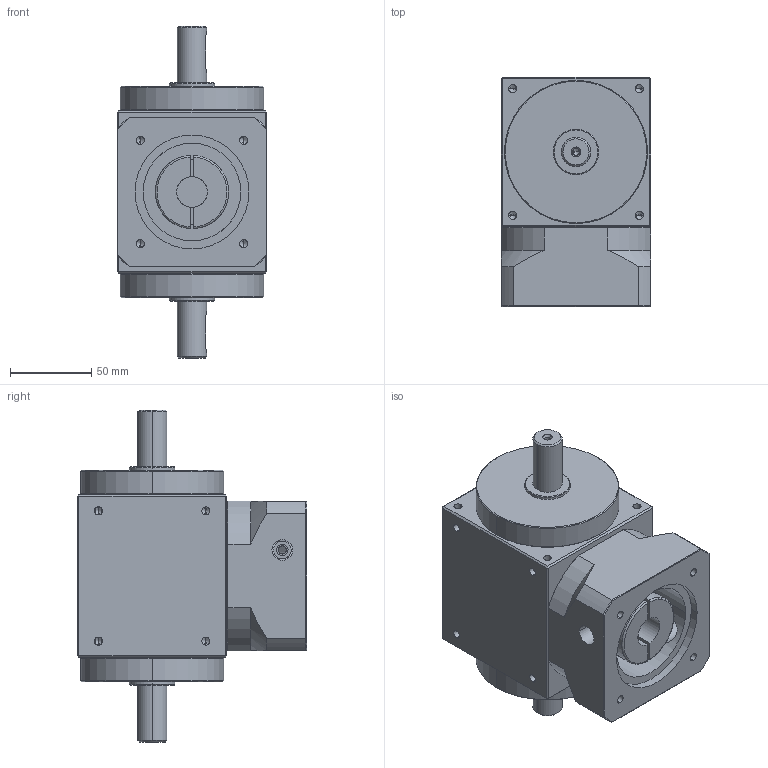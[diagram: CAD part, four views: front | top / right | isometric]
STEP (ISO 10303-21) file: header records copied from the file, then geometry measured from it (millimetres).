
FILE_DESCRIPTION (( 'STEP AP203' ), '1' );
FILE_NAME ('KHT90-S2-L0£r70PCD£r90M6.STEP', '2014-03-26T06:32:35', ( 'KELLY' ), ( '' ), 'SwSTEP 2.0', 'SolidWorks 2012', '' );
FILE_SCHEMA (( 'CONFIG_CONTROL_DESIGN' ));
Length unit declared in the file: millimetre
Products named in the file (1): KHT90-S2-L0｣r70PCD｣r90M6
Bounding box: 92 x 141 x 204 mm (x, y, z)
Volume: 1344160.7 mm3; surface area: 133922.2 mm2
Topology: 4 solids, 4 shells, 301 faces, 698 edges, 380 vertices
Faces by surface type: cylinder 136, cone 92, plane 69, torus 4
Entity records: 9027 total; most frequent: CARTESIAN_POINT 2454, DIRECTION 1404, ORIENTED_EDGE 1292, EDGE_CURVE 646, AXIS2_PLACEMENT_3D 556, VERTEX_POINT 380, EDGE_LOOP 348, FACE_OUTER_BOUND 301
